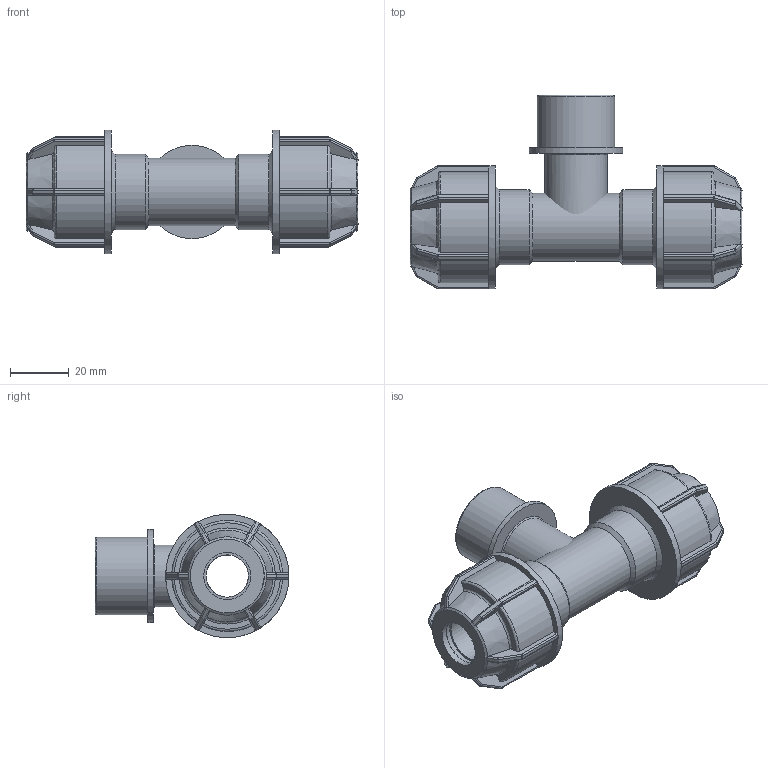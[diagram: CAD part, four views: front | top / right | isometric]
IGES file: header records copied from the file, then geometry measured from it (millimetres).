
Global section: file name: 148400016007.ipt; native system: Autodesk Inventor 2015; preprocessor: unknown; author: KIM; date: 20180409.131226; units: millimetre
Bounding box: 113 x 66 x 42 mm (x, y, z)
Volume: 73934 mm3; surface area: 27464 mm2
Topology: 2 solids, 2 shells, 417 faces, 1022 edges, 597 vertices
Faces by surface type: plane 199, cylinder 116, sphere 48, revolution 38, cone 16
Full cylindrical faces by diameter (mm): 21.153 x1, 23.04 x1, 25.6 x2, 26.441 x1, 31.729 x1, 42 x2
